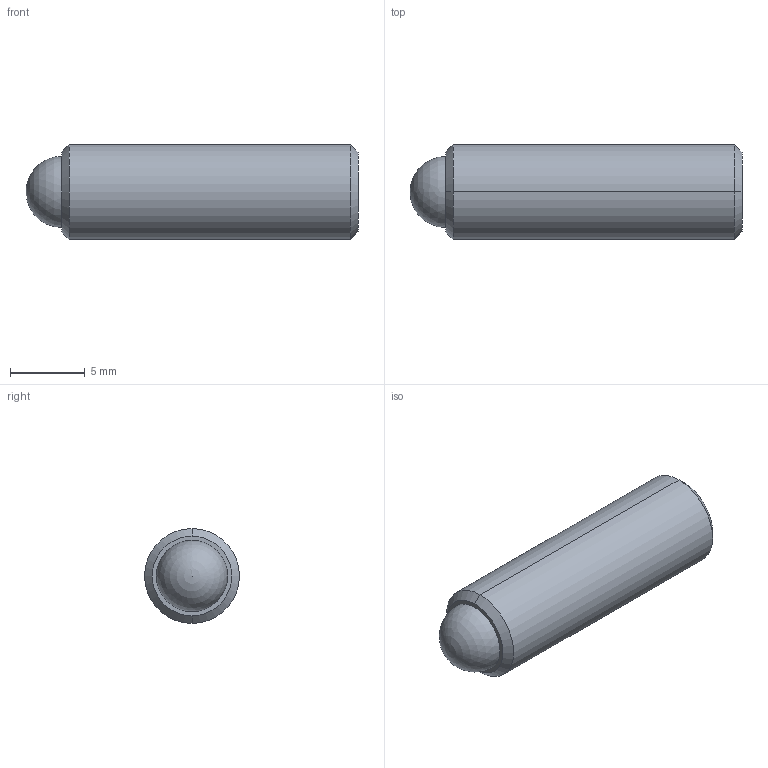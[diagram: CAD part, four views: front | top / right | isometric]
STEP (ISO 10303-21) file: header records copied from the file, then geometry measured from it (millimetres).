
FILE_DESCRIPTION (( 'STEP AP214' ), '1' );
FILE_NAME ('TS250-80-875-AA.STEP', '2013-02-11T21:29:35', ( 'workpc' ), ( 'Microsoft' ), 'SwSTEP 2.0', 'SolidWorks 2013', '' );
FILE_SCHEMA (( 'AUTOMOTIVE_DESIGN' ));
Length unit declared in the file: inch
Products named in the file (1): TS250-80-875-AA
Bounding box: 22.23 x 6.35 x 6.35 mm (x, y, z)
Volume: 637 mm3; surface area: 563.3 mm2
Topology: 2 solids, 2 shells, 20 faces, 45 edges, 29 vertices
Faces by surface type: plane 10, cylinder 4, cone 4, sphere 2
Entity records: 599 total; most frequent: DIRECTION 96, CARTESIAN_POINT 87, ORIENTED_EDGE 80, EDGE_CURVE 40, AXIS2_PLACEMENT_3D 35, VECTOR 26, VERTEX_POINT 26, LINE 26
